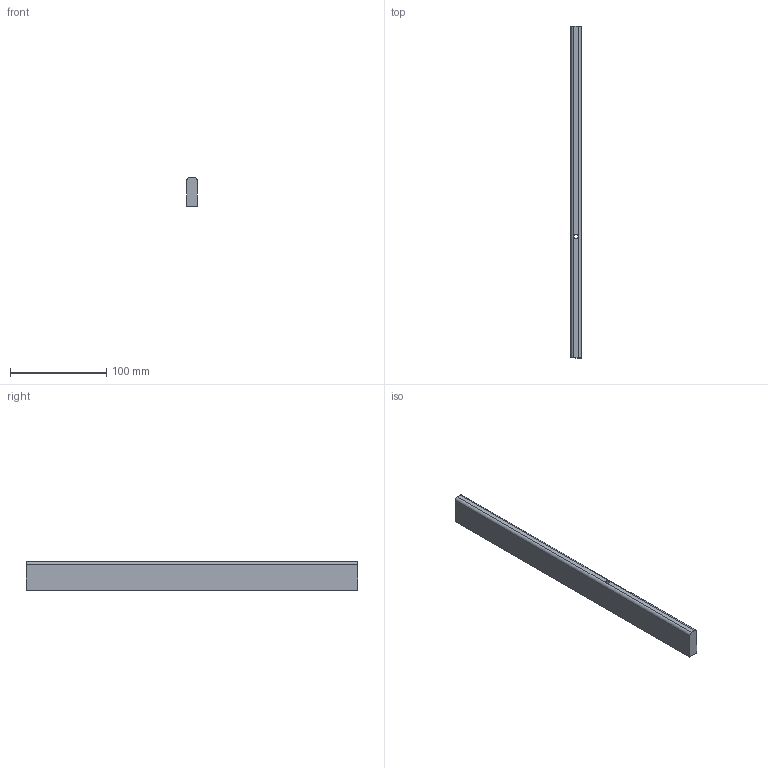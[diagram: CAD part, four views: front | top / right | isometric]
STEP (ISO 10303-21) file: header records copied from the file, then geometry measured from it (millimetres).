
FILE_DESCRIPTION (( 'STEP AP214' ), '1' );
FILE_NAME ('_Seitenreling_SP60702400_RL345.step', '2010-09-06T14:52:06', ( 'grass' ), ( '' ), 'SwSTEP 2.0', 'SolidWorks 2010', '' );
FILE_SCHEMA (( 'AUTOMOTIVE_DESIGN' ));
Length unit declared in the file: millimetre
Products named in the file (1): _Seitenreling_SP60702400_RL345
Bounding box: 10.5 x 345 x 30 mm (x, y, z)
Volume: 106423.3 mm3; surface area: 28217.2 mm2
Topology: 1 solids, 1 shells, 14 faces, 34 edges, 22 vertices
Faces by surface type: plane 8, cylinder 6
Entity records: 454 total; most frequent: DIRECTION 78, CARTESIAN_POINT 71, ORIENTED_EDGE 68, EDGE_CURVE 34, AXIS2_PLACEMENT_3D 29, VERTEX_POINT 22, VECTOR 20, LINE 20
